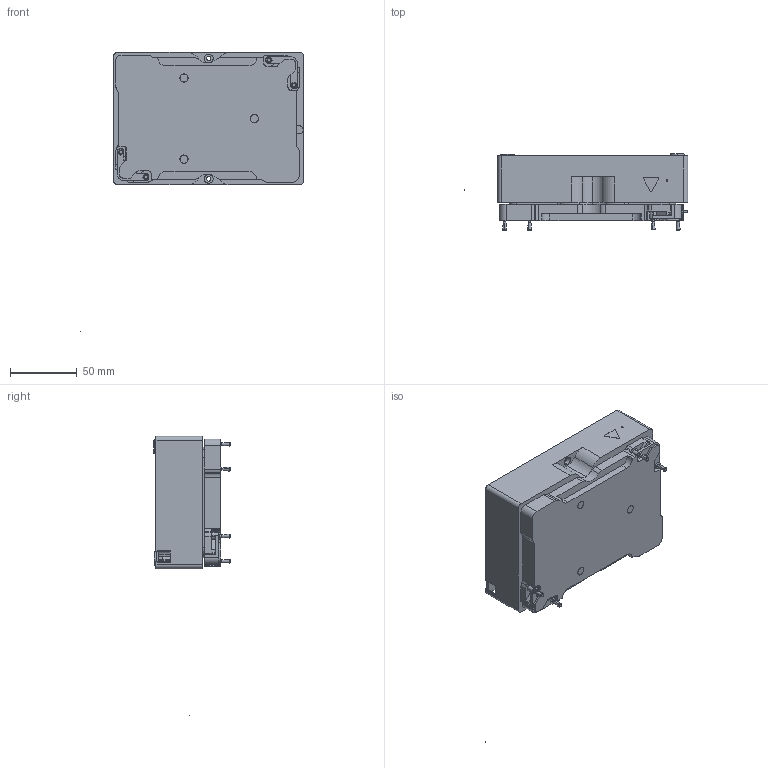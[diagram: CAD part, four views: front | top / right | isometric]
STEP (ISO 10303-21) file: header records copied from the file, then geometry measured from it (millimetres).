
FILE_DESCRIPTION (( 'STEP AP214' ), '1' );
FILE_NAME ('2016-0017-00_external_use_180320.STEP', '2018-03-20T09:55:14', ( '' ), ( '' ), 'SwSTEP 2.0', 'SolidWorks 2017', '' );
FILE_SCHEMA (( 'AUTOMOTIVE_DESIGN' ));
Length unit declared in the file: millimetre
Products named in the file (1): 2016-0017-00_external_use_180320
Bounding box: 167.19 x 56.9 x 208.86 mm (x, y, z)
Surface area: 75823.2 mm2 (no closed solid volume)
Topology: 0 solids, 30 shells, 1151 faces, 3080 edges, 2008 vertices
Faces by surface type: plane 490, cylinder 459, bspline 106, cone 82, torus 14
Entity records: 51508 total; most frequent: CARTESIAN_POINT 9948, ORIENTED_EDGE 6108, DIRECTION 5947, EDGE_CURVE 3056, AXIS2_PLACEMENT_3D 2065, VERTEX_POINT 2008, VECTOR 1817, LINE 1817
